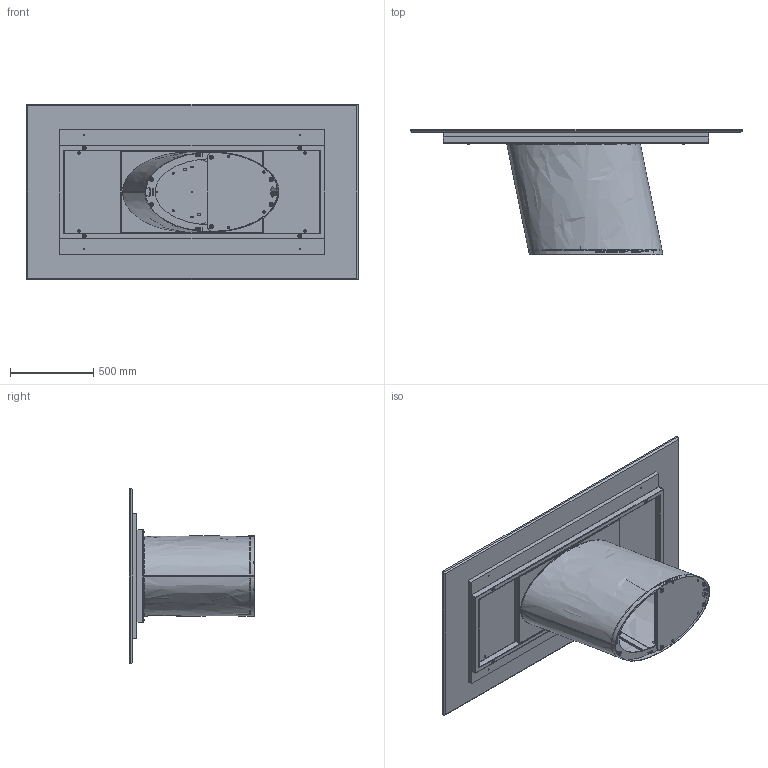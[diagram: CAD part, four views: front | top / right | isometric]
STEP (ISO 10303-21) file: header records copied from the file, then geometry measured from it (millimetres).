
FILE_DESCRIPTION (( 'STEP AP203' ), '1' );
FILE_NAME ('DO21M.STEP', '2024-08-06T13:09:25', ( '' ), ( '' ), 'SwSTEP 2.0', 'SolidWorks 2022', '' );
FILE_SCHEMA (( 'CONFIG_CONTROL_DESIGN' ));
Length unit declared in the file: millimetre
Products named in the file (23): DOB000000_06-00-Lamiera guscio dx_Default<A macchina>; DOB000000_07-00-lamiera guscio sx_Default<A macchina>; TTAV01_02-05-VASSOIO IRRIGIDIMENTO TELAIO UNIVERSALE; barra filettata H.72cm_barra; DOB000000_05-00-Zavorra intenra del dorado_Default<A macchina>; TRUXXXXXX-00-NOBILITATO GR CON SUPP TRUCIOLARE SP. 25_TRU00004_1600x720; M8xXXmm_M8X30mm; M8xXXmm_M8x55mm; TTAV01-05-TELAIO UNIVERSALE X TAVOLI 180 240cm; piedino dorado; TTAV01_01-05-TELAIO UNIVERSALE X TAVOLI 180 240cm; COLLO TELAIO UNIVERSALE TTAV01 CON FERRAMENTA_MTG TOP LEGNO-MARMO-KING; DOB000000_08-00-Zavorra inferiore_Default<A macchina>; DOB000000_04-00-contrapesso filettato_Default<A macchina>; DOB000000-00-DORADO BASE GREZZO; DOB000000_03-00-Piastra  inferiore_Default<A macchina>; DOB000000_02-00-barra rettangoalre di supporto_Default<A macchina>; nut_M8_M8; M2XMXX-00-Piani rettangolari in marmo_2000x1060; DO21M; rondella M8_8X24; DOB000000_01-00-piastra superiore _Default<A macchina>; M2X-00-Piani rettangolari marmo_2000*1060
Assembly tree (44 placements, depth 4):
  DO21M
    DOB000000-00-DORADO BASE GREZZO
      DOB000000_08-00-Zavorra inferiore_Default<A macchina>
      DOB000000_04-00-contrapesso filettato_Default<A macchina>
      DOB000000_05-00-Zavorra intenra del dorado_Default<A macchina>  x4
      DOB000000_01-00-piastra superiore _Default<A macchina>
      DOB000000_07-00-lamiera guscio sx_Default<A macchina>
      DOB000000_02-00-barra rettangoalre di supporto_Default<A macchina>  x4
      DOB000000_03-00-Piastra  inferiore_Default<A macchina>
      DOB000000_06-00-Lamiera guscio dx_Default<A macchina>
      M8xXXmm_M8X30mm  x4
      nut_M8_M8  x2
      piedino dorado  x6
      barra filettata H.72cm_barra  x2
    COLLO TELAIO UNIVERSALE TTAV01 CON FERRAMENTA_MTG TOP LEGNO-MARMO-KING
      TTAV01-05-TELAIO UNIVERSALE X TAVOLI 180 240cm
        TTAV01_02-05-VASSOIO IRRIGIDIMENTO TELAIO UNIVERSALE
        TTAV01_01-05-TELAIO UNIVERSALE X TAVOLI 180 240cm
      rondella M8_8X24  x4
      M8xXXmm_M8x55mm  x4
    M2XMXX-00-Piani rettangolari in marmo_2000x1060
      M2X-00-Piani rettangolari marmo_2000*1060
      TRUXXXXXX-00-NOBILITATO GR CON SUPP TRUCIOLARE SP. 25_TRU00004_1600x720
Bounding box: 2000 x 757 x 1060 mm (x, y, z)
Volume: 84207988.7 mm3; surface area: 14101128.1 mm2
Topology: 46 solids, 46 shells, 1322 faces, 3210 edges, 1971 vertices
Faces by surface type: cylinder 524, plane 458, cone 182, torus 124, bspline 26, sphere 8
Entity records: 30589 total; most frequent: CARTESIAN_POINT 8494, DIRECTION 4144, ORIENTED_EDGE 3824, EDGE_CURVE 1912, AXIS2_PLACEMENT_3D 1555, VERTEX_POINT 1221, VECTOR 1034, LINE 1034
